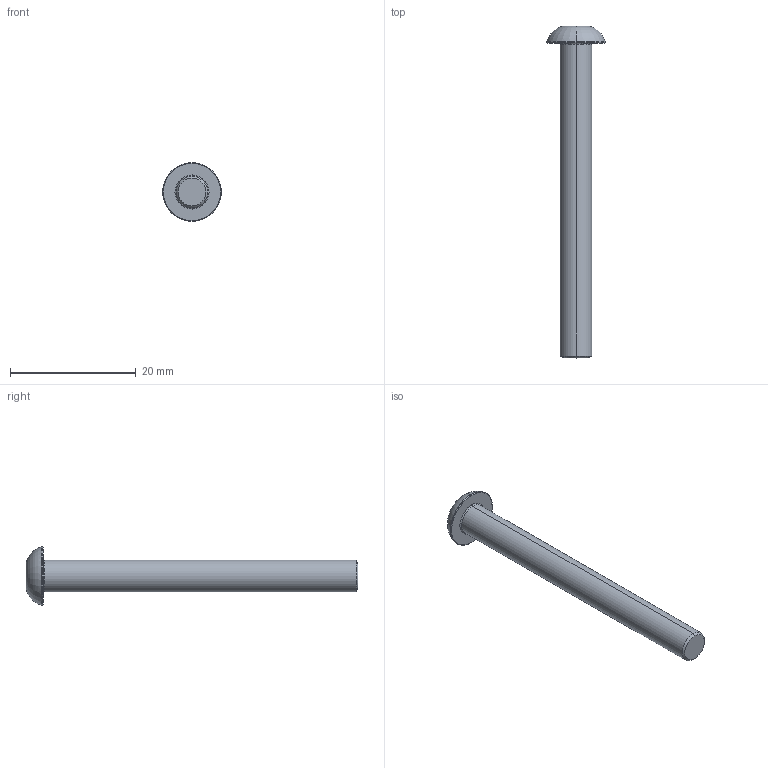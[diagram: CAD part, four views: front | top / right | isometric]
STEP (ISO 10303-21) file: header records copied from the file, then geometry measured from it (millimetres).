
FILE_DESCRIPTION (( 'STEP AP203' ), '1' );
FILE_NAME ('LGDD-TD-M5x50.STEP', '2026-08-14T01:33:15', ( '' ), ( '' ), 'SwSTEP 2.0', 'SolidWorks 2020', '' );
FILE_SCHEMA (( 'CONFIG_CONTROL_DESIGN' ));
Length unit declared in the file: millimetre
Products named in the file (1): LGDD-TD-M5x50
Bounding box: 9.3 x 52.7 x 9.3 mm (x, y, z)
Volume: 1095.6 mm3; surface area: 973.8 mm2
Topology: 1 solids, 1 shells, 31 faces, 59 edges, 32 vertices
Faces by surface type: plane 10, cone 9, torus 8, cylinder 4
Entity records: 864 total; most frequent: CARTESIAN_POINT 154, DIRECTION 149, ORIENTED_EDGE 118, AXIS2_PLACEMENT_3D 65, EDGE_CURVE 59, CIRCLE 33, EDGE_LOOP 33, VERTEX_POINT 32
